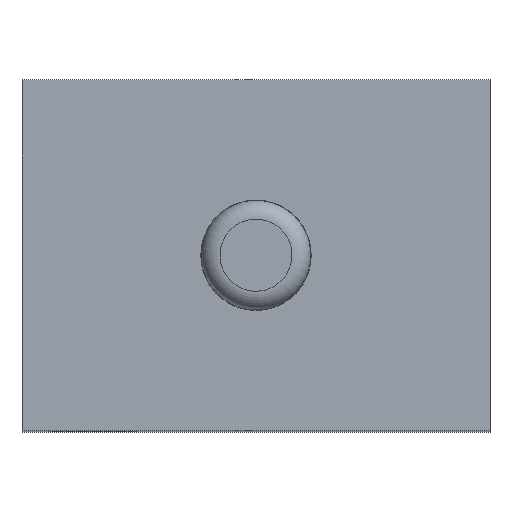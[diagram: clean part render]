
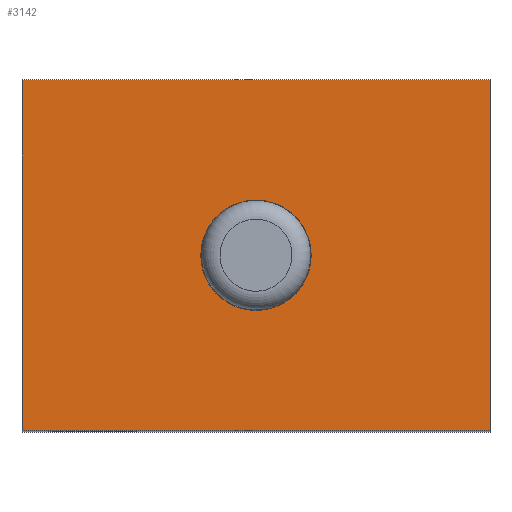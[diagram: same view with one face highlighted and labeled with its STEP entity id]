
A CAD part, top view. The second image highlights one B-rep face of the part: STEP entity #3142.
In plain terms, the highlighted planar face has unit normal (0, 0, 1).
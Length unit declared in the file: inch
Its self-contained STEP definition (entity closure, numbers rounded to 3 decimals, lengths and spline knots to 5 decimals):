
#79=CIRCLE('',#3292,0.118);
#224=FACE_BOUND('',#731,.T.);
#225=FACE_BOUND('',#732,.T.);
#731=EDGE_LOOP('',(#2802));
#732=EDGE_LOOP('',(#2803,#2804,#2805,#2806));
#885=LINE('',#4632,#1151);
#1079=LINE('',#5470,#1345);
#1083=LINE('',#5659,#1349);
#1084=LINE('',#5662,#1350);
#1151=VECTOR('',#3493,0.75);
#1345=VECTOR('',#3817,0.75);
#1349=VECTOR('',#3881,1.);
#1350=VECTOR('',#3886,1.);
#1425=VERTEX_POINT('',#4629);
#1426=VERTEX_POINT('',#4631);
#1586=VERTEX_POINT('',#5467);
#1587=VERTEX_POINT('',#5469);
#1599=VERTEX_POINT('',#5537);
#1758=EDGE_CURVE('',#1425,#1426,#885,.T.);
#1997=EDGE_CURVE('',#1586,#1587,#1079,.T.);
#2012=EDGE_CURVE('',#1599,#1599,#79,.T.);
#2018=EDGE_CURVE('',#1587,#1425,#1083,.T.);
#2019=EDGE_CURVE('',#1426,#1586,#1084,.T.);
#2802=ORIENTED_EDGE('',*,*,#2012,.T.);
#2803=ORIENTED_EDGE('',*,*,#2019,.F.);
#2804=ORIENTED_EDGE('',*,*,#1758,.F.);
#2805=ORIENTED_EDGE('',*,*,#2018,.F.);
#2806=ORIENTED_EDGE('',*,*,#1997,.F.);
#2983=PLANE('',#3306);
#3142=ADVANCED_FACE('',(#224,#225),#2983,.T.);
#3292=AXIS2_PLACEMENT_3D('',#5538,#3857,#3858);
#3306=AXIS2_PLACEMENT_3D('',#5663,#3887,#3888);
#3493=DIRECTION('',(0.,1.,0.));
#3817=DIRECTION('',(0.,-1.,0.));
#3857=DIRECTION('center_axis',(0.,0.,-1.));
#3858=DIRECTION('ref_axis',(1.,0.,0.));
#3881=DIRECTION('',(-1.,0.,0.));
#3886=DIRECTION('',(1.,0.,0.));
#3887=DIRECTION('center_axis',(0.,0.,1.));
#3888=DIRECTION('ref_axis',(1.,0.,0.));
#4629=CARTESIAN_POINT('',(-0.5,-0.375,0.));
#4631=CARTESIAN_POINT('',(-0.5,0.375,0.));
#4632=CARTESIAN_POINT('',(-0.5,-0.375,0.));
#5467=CARTESIAN_POINT('',(0.5,0.375,0.));
#5469=CARTESIAN_POINT('',(0.5,-0.375,0.));
#5470=CARTESIAN_POINT('',(0.5,0.375,0.));
#5537=CARTESIAN_POINT('',(-0.118,0.,0.));
#5538=CARTESIAN_POINT('Origin',(0.,0.,0.));
#5659=CARTESIAN_POINT('',(0.5,-0.375,0.));
#5662=CARTESIAN_POINT('',(-0.5,0.375,0.));
#5663=CARTESIAN_POINT('Origin',(0.,0.,
0.));
